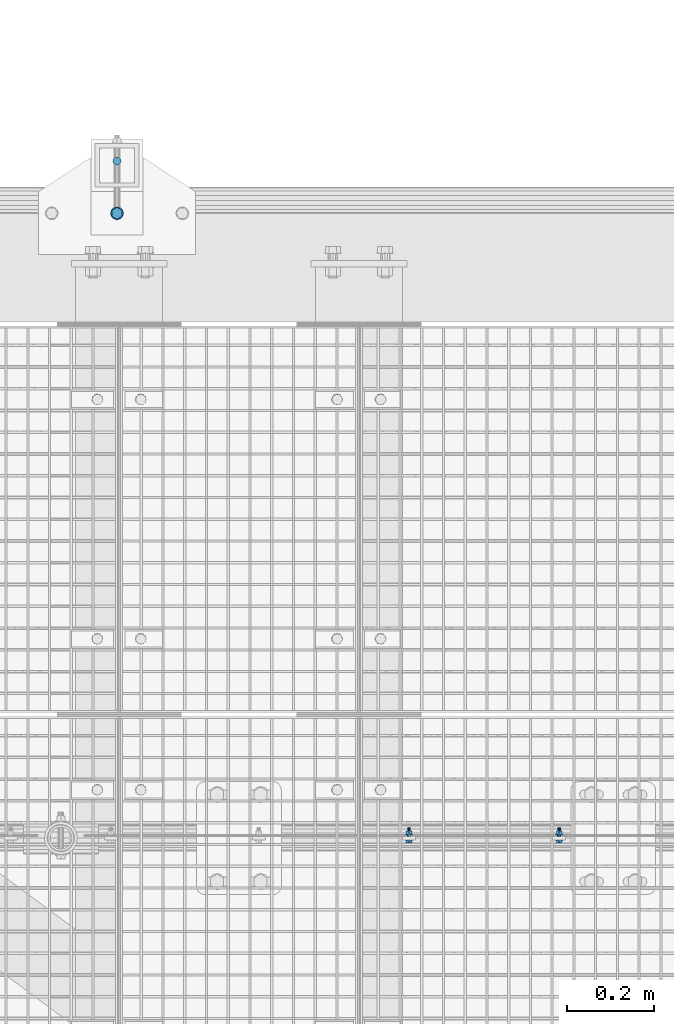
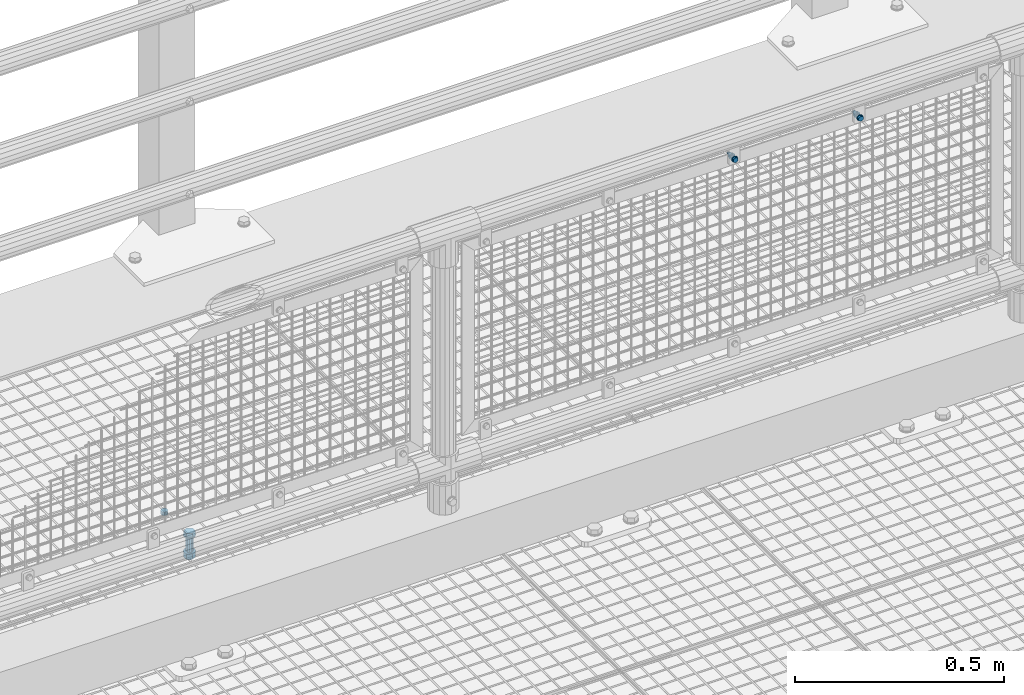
# One storey, part 76 of 1530: 4 mechanical fasteners.
"""IFC2X3 building model written with IfcOpenShell, lengths in millimetres."""

import ifcopenshell
import ifcopenshell.guid

model = None  # the IFC model being written
_history = None  # IfcOwnerHistory: only IFC2X3 demands one
_inside = {}  # id of a spatial element -> (the spatial element, [elements in it])
_under = {}  # id of a project, library or spatial element -> (it, [spatial elements below it])
_declared = {}  # id of a project -> (the project, [libraries it declares])
_typed = {}  # id of a type object -> (the type object, [elements of that type])
_made_of = {}  # id of a material, layer set ... -> (it, [elements and type objects made of it])


def new_model(schema):
    """Start an empty IFC model of exactly this schema.

    Asked for "IFC4X3", IfcOpenShell would pick the latest addendum, in which some entities
    have other attributes; the version numbers below select the first issue.
    IFC2X3 requires an IfcOwnerHistory on every rooted entity: one is made here for all.
    """
    global model, _history
    if schema == "IFC4X3":
        model = ifcopenshell.file(schema_version=(4, 3, 0, 0))
    else:
        model = ifcopenshell.file(schema=schema)
    _inside.clear()
    _under.clear()
    _declared.clear()
    _typed.clear()
    _made_of.clear()
    _history = None
    if model.schema == "IFC2X3":
        org = make("IfcOrganization", Name="unknown")
        user = make(
            "IfcPersonAndOrganization",
            ThePerson=make("IfcPerson", FamilyName="unknown"),
            TheOrganization=org,
        )
        app = make(
            "IfcApplication",
            ApplicationDeveloper=org,
            Version="unknown",
            ApplicationFullName="unknown",
            ApplicationIdentifier="unknown",
        )
        _history = make(
            "IfcOwnerHistory",
            OwningUser=user,
            OwningApplication=app,
            ChangeAction="ADDED",
            CreationDate=0,
        )
    return model


def make(cls, **values):
    """One entity of the class cls with the attributes given. An attribute that is None is left unset."""
    return model.create_entity(
        cls, **{name: value for name, value in values.items() if value is not None}
    )


def rooted(cls, **values):
    """An entity with a GlobalId (a new one), such as an element, a storey or a relation."""
    return make(cls, GlobalId=ifcopenshell.guid.new(), OwnerHistory=_history, **values)


def si_unit(unit_type, name, prefix=None):
    """IfcSIUnit, for example si_unit("LENGTHUNIT", "METRE", prefix="MILLI")."""
    return make("IfcSIUnit", UnitType=unit_type, Prefix=prefix, Name=name)


def assignment(units):
    """IfcUnitAssignment: the units of a project."""
    return None if units is None else make("IfcUnitAssignment", Units=units)


def point(xyz):
    """IfcCartesianPoint."""
    return None if xyz is None else make("IfcCartesianPoint", Coordinates=xyz)


def direction(xyz):
    """IfcDirection."""
    return None if xyz is None else make("IfcDirection", DirectionRatios=xyz)


def frame(location, z_axis=None, x_axis=None):
    """IfcAxis2Placement3D, a coordinate frame: its origin and axes. An axis left out is left unset."""
    return make(
        "IfcAxis2Placement3D",
        Location=point(location),
        Axis=direction(z_axis),
        RefDirection=direction(x_axis),
    )


def origin_with_axes():
    """The frame at (0, 0, 0) with the z axis (0, 0, 1) and the x axis (1, 0, 0) written out."""
    return frame((0.0, 0.0, 0.0), z_axis=(0.0, 0.0, 1.0), x_axis=(1.0, 0.0, 0.0))


def place(relative_to, where):
    """IfcLocalPlacement: puts the frame where relative to a parent placement (None: the world)."""
    return make(
        "IfcLocalPlacement", PlacementRelTo=relative_to, RelativePlacement=where
    )


def context(
    kind, dimensions, precision=None, world=None, true_north=None, identifier=None
):
    """IfcGeometricRepresentationContext, for example the 3D "Model" context."""
    return make(
        "IfcGeometricRepresentationContext",
        ContextIdentifier=identifier,
        ContextType=kind,
        CoordinateSpaceDimension=dimensions,
        Precision=precision,
        WorldCoordinateSystem=world,
        TrueNorth=true_north,
    )


def subcontext(parent, identifier, kind, view, scale=None):
    """IfcGeometricRepresentationSubContext, for example "Body" below "Model"."""
    return make(
        "IfcGeometricRepresentationSubContext",
        ContextIdentifier=identifier,
        ContextType=kind,
        ParentContext=parent,
        TargetScale=scale,
        TargetView=view,
    )


def project(units=None, contexts=None):
    """IfcProject with its units and contexts."""
    return rooted(
        "IfcProject",
        Name="project",
        RepresentationContexts=contexts,
        UnitsInContext=assignment(units),
    )


def spatial(cls, under=None, at=None, **own):
    """A site, building, storey or space (cls), placed at a placement, below another one or the project."""
    s = rooted(cls, ObjectPlacement=at, **own)
    if under is not None:
        _under.setdefault(under.id(), (under, []))[1].append(s)
    return s


def faces_of(points, faces, orient=None, outer=None):
    """IfcFace entities. A face is a list of loops; a loop is a list of indices into points, from 0.

    orient and outer hold one flag for each loop. By default every Orientation is true, the
    first loop of a face is its IfcFaceOuterBound and the others are IfcFaceBound.
    """
    made = []
    for i, loops in enumerate(faces):
        bounds = []
        for j, loop in enumerate(loops):
            is_outer = j == 0 if outer is None else outer[i][j]
            bounds.append(
                make(
                    "IfcFaceOuterBound" if is_outer else "IfcFaceBound",
                    Bound=make("IfcPolyLoop", Polygon=[points[k] for k in loop]),
                    Orientation=True if orient is None else orient[i][j],
                )
            )
        made.append(make("IfcFace", Bounds=bounds))
    return made


def faceted_brep(points, faces, orient=None, outer=None, voids=None):
    """IfcFacetedBrep: a solid bounded by flat faces; with voids (closed shells), ...WithVoids."""
    shared = [point(p) for p in points]
    hull = make("IfcClosedShell", CfsFaces=faces_of(shared, faces, orient, outer))
    if voids is None:
        return make("IfcFacetedBrep", Outer=hull)
    return make(
        "IfcFacetedBrepWithVoids",
        Outer=hull,
        Voids=[
            make(cls, CfsFaces=faces_of(shared, fs, o, b)) for cls, fs, o, b in voids
        ],
    )


def shape(context_of_items, identifier, shape_type, items):
    """IfcShapeRepresentation: the items that make up one representation, for example the "Body"."""
    return make(
        "IfcShapeRepresentation",
        ContextOfItems=context_of_items,
        RepresentationIdentifier=identifier,
        RepresentationType=shape_type,
        Items=items,
    )


def source(mapping_origin, context_of_items, identifier, shape_type, items):
    """IfcRepresentationMap: a shape defined once, which mapped items show again and again."""
    return make(
        "IfcRepresentationMap",
        MappingOrigin=mapping_origin,
        MappedRepresentation=shape(context_of_items, identifier, shape_type, items),
    )


def transform(
    local_origin,
    x_axis=None,
    y_axis=None,
    z_axis=None,
    scale=None,
    scale2=None,
    scale3=None,
    uniform=True,
):
    """IfcCartesianTransformationOperator3D, or its non-uniform kind. x_axis, y_axis, z_axis: its Axis1, 2, 3."""
    if uniform:
        return make(
            "IfcCartesianTransformationOperator3D",
            Axis1=direction(x_axis),
            Axis2=direction(y_axis),
            LocalOrigin=point(local_origin),
            Scale=scale,
            Axis3=direction(z_axis),
        )
    return make(
        "IfcCartesianTransformationOperator3DnonUniform",
        Axis1=direction(x_axis),
        Axis2=direction(y_axis),
        LocalOrigin=point(local_origin),
        Scale=scale,
        Axis3=direction(z_axis),
        Scale2=scale2,
        Scale3=scale3,
    )


def mapped(mapping_source, mapping_target):
    """IfcMappedItem: shows the shape of a source again, moved by a transform."""
    return make(
        "IfcMappedItem", MappingSource=mapping_source, MappingTarget=mapping_target
    )


def material(Name=None, Category=None):
    """IfcMaterial."""
    return make("IfcMaterial", Name=Name, Category=Category)


def made_of(thing, what):
    """Note that an element or type object is made of a material, layer set ...; save() writes the relation."""
    if what is not None:
        _made_of.setdefault(what.id(), (what, []))[1].append(thing)
    return thing


def type_object(cls, material=None, **own):
    """A type object (cls), such as IfcWallType, which elements share."""
    return made_of(rooted(cls, **own), material)


def element(
    cls,
    number,
    at=None,
    inside=None,
    cuts=None,
    type_object=None,
    material=None,
    context=None,
    identifier="Body",
    shape_type=None,
    held_by="IfcProductDefinitionShape",
    body=None,
    shapes=None,
    **own,
):
    """One element of the class cls, such as IfcWall. Its Tag is "e" and its number.

    at: its placement. inside: the storey or other place that contains it. cuts: it is an
    opening in that element (IfcRelVoidsElement). A single representation is given by context,
    identifier, shape_type and body (its items); several are given by shapes. held_by: the class
    of the entity that holds the representations. save() writes the other relations.
    """
    e = rooted(cls, Tag="e%d" % number, ObjectPlacement=at, **own)
    if body is not None:
        shapes = [shape(context, identifier, shape_type, body)]
    if shapes is not None:
        e.Representation = make(held_by, Representations=shapes)
    if inside is not None:
        _inside.setdefault(inside.id(), (inside, []))[1].append(e)
    if cuts is not None:
        rooted(
            "IfcRelVoidsElement", RelatingBuildingElement=cuts, RelatedOpeningElement=e
        )
    if type_object is not None:
        _typed.setdefault(type_object.id(), (type_object, []))[1].append(e)
    return made_of(e, material)


def aggregate(whole, parts):
    """IfcRelAggregates: a whole, such as a stair, and the parts it consists of."""
    return rooted("IfcRelAggregates", RelatingObject=whole, RelatedObjects=parts)


def save(model, path):
    """Write the relations noted so far, then the file.

    IfcRelAggregates (storeys below a building ...), IfcRelContainedInSpatialStructure (elements
    in a storey), IfcRelDefinesByType, IfcRelAssociatesMaterial and IfcRelDeclares: one each for
    every whole, place, type object, material and project.
    """
    for whole, parts in _under.values():
        aggregate(whole, parts)
    for where, things in _inside.values():
        rooted(
            "IfcRelContainedInSpatialStructure",
            RelatedElements=things,
            RelatingStructure=where,
        )
    for kind, things in _typed.values():
        rooted("IfcRelDefinesByType", RelatedObjects=things, RelatingType=kind)
    for what, things in _made_of.values():
        rooted("IfcRelAssociatesMaterial", RelatedObjects=things, RelatingMaterial=what)
    for by, libraries in _declared.values():
        rooted("IfcRelDeclares", RelatingContext=by, RelatedDefinitions=libraries)
    model.write(path)


model = new_model("IFC2X3")

# Units and contexts
model_context = context("Model", 3, precision=1e-05, world=origin_with_axes())
body_context = subcontext(model_context, "Body", "Model", "MODEL_VIEW")
ifc_project = project(units=[si_unit("LENGTHUNIT", "METRE", prefix="MILLI"), si_unit("AREAUNIT", "SQUARE_METRE"), si_unit("VOLUMEUNIT", "CUBIC_METRE"), si_unit("MASSUNIT", "GRAM", prefix="KILO"), si_unit("TIMEUNIT", "SECOND"), si_unit("PLANEANGLEUNIT", "RADIAN"), si_unit("SOLIDANGLEUNIT", "STERADIAN"), si_unit("THERMODYNAMICTEMPERATUREUNIT", "DEGREE_CELSIUS"), si_unit("LUMINOUSINTENSITYUNIT", "LUMEN")], contexts=[model_context])

# Site, building, storey
site_placement = place(None, origin_with_axes())
site = spatial("IfcSite", under=ifc_project, at=site_placement, Name="Brattvåg", CompositionType="ELEMENT")
building_placement = place(site_placement, origin_with_axes())
building = spatial("IfcBuilding", under=site, at=building_placement, Name="Undefined", CompositionType="ELEMENT")
storey_placement = place(building_placement, origin_with_axes())
storey = spatial("IfcBuildingStorey", under=building, at=storey_placement, Name="Undefined", CompositionType="ELEMENT", Elevation=0.0)

# Mechanical fasteners
ifc_material = material(Name="8")
mechanical_fastener_type = type_object("IfcMechanicalFastenerType", Name="Bolt assembly")
shared_shape_1 = source(origin_with_axes(), body_context, "Body", "Brep", [
    faceted_brep([(9.0, -0.000108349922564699, 0.0), (7.79422863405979, -0.000108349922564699, 4.50000000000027), (4.49999999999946, -0.000108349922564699, 7.79422863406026), (-9.3270238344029e-13, -0.000108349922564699, 9.0), (-4.50000000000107, -0.000108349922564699, 7.79422863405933), (-7.79422863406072, -0.000108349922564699, 4.49999999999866), (-9.0, -0.000108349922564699, -1.86540476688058e-12), (-7.79422863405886, -0.000108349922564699, -4.50000000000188), (-4.49999999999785, -0.000108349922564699, -7.79422863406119), (2.78811514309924e-12, -0.000108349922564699, -9.0), (4.50000000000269, -0.000108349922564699, -7.7942286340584), (7.79422863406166, -0.000108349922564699, -4.49999999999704), (7.79422863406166, 10.0998916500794, -4.49999999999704), (4.50000000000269, 10.0998916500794, -7.7942286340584), (2.78811514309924e-12, 10.0998916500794, -9.0), (-4.49999999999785, 10.0998916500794, -7.79422863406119), (-7.79422863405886, 10.0998916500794, -4.50000000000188), (-9.0, 10.0998916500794, -1.86540476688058e-12), (-7.79422863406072, 10.0998916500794, 4.49999999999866), (-4.50000000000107, 10.0998916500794, 7.79422863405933), (-9.3270238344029e-13, 10.0998916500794, 9.0), (4.49999999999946, 10.0998916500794, 7.79422863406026), (7.79422863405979, 10.0998916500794, 4.50000000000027), (9.0, 10.0998916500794, 0.0)], [[[0, 1, 2, 3, 4, 5, 6, 7, 8, 9, 10, 11]], [[12, 13, 14, 15, 16, 17, 18, 19, 20, 21, 22, 23]], [[0, 23, 22, 1]], [[1, 22, 21, 2]], [[2, 21, 20, 3]], [[3, 20, 19, 4]], [[4, 19, 18, 5]], [[5, 18, 17, 6]], [[6, 17, 16, 7]], [[7, 16, 15, 8]], [[8, 15, 14, 9]], [[9, 14, 13, 10]], [[10, 13, 12, 11]], [[11, 12, 23, 0]]]),
])
mechanical_fastener_1_placement = place(storey_placement, frame((2350.00016021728, 9219.99992874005, -855.000061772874), z_axis=(-1.0, 1.99999855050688e-09, 0.0), x_axis=(0.0, -0.99999999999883, 1.53000000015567e-06)))
element("IfcMechanicalFastener", 1, at=mechanical_fastener_1_placement, inside=storey, type_object=mechanical_fastener_type, material=ifc_material, Name="Bolt assembly", NominalDiameter=16.0, NominalLength=10.0001087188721, context=body_context, shape_type="MappedRepresentation", body=[
    mapped(shared_shape_1, transform((0.0, 0.0, 0.0))),
])
shared_shape_2 = source(origin_with_axes(), body_context, "Body", "Brep", [
    faceted_brep([(7.50555349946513, -6.90000021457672, 0.0), (3.75277674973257, -6.90000021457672, 6.5), (-3.75277674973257, -6.90000021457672, 6.5), (-7.50555349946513, -6.90000021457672, 9.19165206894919e-16), (-3.75277674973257, -6.90000021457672, -6.5), (3.75277674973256, -6.90000021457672, -6.5), (3.75277674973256, -1.60000002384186, -6.5), (-3.75277674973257, -1.60000002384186, -6.5), (-7.50555349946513, -1.60000002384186, 9.19165206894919e-16), (-3.75277674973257, -1.60000002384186, 6.5), (3.75277674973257, -1.60000002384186, 6.5), (7.50555349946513, -1.60000002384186, 0.0), (4.0, -1.60000002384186, 0.0), (3.46410161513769, -1.60000002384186, 2.00000000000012), (1.99999999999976, -1.60000002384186, 3.46410161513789), (-4.14534392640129e-13, -1.60000002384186, 4.0), (-2.00000000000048, -1.60000002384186, 3.46410161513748), (-3.4641016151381, -1.60000002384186, 1.9999999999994), (-4.0, -1.60000002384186, -8.29068785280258e-13), (-3.46410161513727, -1.60000002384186, -2.00000000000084), (-1.99999999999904, -1.60000002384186, -3.46410161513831), (1.23916228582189e-12, -1.60000002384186, -4.0), (2.00000000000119, -1.60000002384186, -3.46410161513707), (3.46410161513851, -1.60000002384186, -1.99999999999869), (3.46410161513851, 28.3999999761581, -1.99999999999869), (2.00000000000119, 28.3999999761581, -3.46410161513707), (1.23916228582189e-12, 28.3999999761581, -4.0), (-1.99999999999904, 28.3999999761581, -3.46410161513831), (-3.46410161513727, 28.3999999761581, -2.00000000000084), (-4.0, 28.3999999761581, -8.29068785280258e-13), (-3.4641016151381, 28.3999999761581, 1.9999999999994), (-2.00000000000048, 28.3999999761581, 3.46410161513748), (-4.14534392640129e-13, 28.3999999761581, 4.0), (1.99999999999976, 28.3999999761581, 3.46410161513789), (3.46410161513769, 28.3999999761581, 2.00000000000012), (4.0, 28.3999999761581, 0.0), (8.5, -1.60000002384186, 0.0), (7.36121593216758, -1.60000002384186, 4.25000000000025), (4.24999999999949, -1.60000002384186, 7.36121593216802), (-8.80885584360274e-13, -1.60000002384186, 8.5), (-4.25000000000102, -1.60000002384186, 7.36121593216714), (-7.36121593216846, -1.60000002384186, 4.24999999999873), (-8.5, -1.60000002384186, -1.76177116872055e-12), (-7.3612159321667, -1.60000002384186, -4.25000000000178), (-4.24999999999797, -1.60000002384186, -7.3612159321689), (2.63321985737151e-12, -1.60000002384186, -8.5), (4.25000000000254, -1.60000002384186, -7.36121593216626), (7.36121593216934, -1.60000002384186, -4.24999999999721), (7.36121593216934, 0.0, -4.24999999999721), (4.25000000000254, 0.0, -7.36121593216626), (2.63321985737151e-12, 0.0, -8.5), (-4.24999999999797, 0.0, -7.3612159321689), (-7.3612159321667, 0.0, -4.25000000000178), (-8.5, 0.0, -1.76177116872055e-12), (-7.36121593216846, 0.0, 4.24999999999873), (-4.25000000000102, 0.0, 7.36121593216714), (-8.80885584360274e-13, 0.0, 8.5), (4.24999999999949, 0.0, 7.36121593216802), (7.36121593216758, 0.0, 4.25000000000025), (8.5, 0.0, 0.0), (8.5, 11.5015258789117, 0.0), (7.36121593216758, 11.5015258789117, 4.25000000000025), (4.24999999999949, 11.5015258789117, 7.36121593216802), (-8.80885584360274e-13, 11.5015258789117, 8.5), (-4.25000000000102, 11.5015258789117, 7.36121593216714), (-7.36121593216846, 11.5015258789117, 4.24999999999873), (-8.5, 11.5015258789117, -1.76177116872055e-12), (-7.3612159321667, 11.5015258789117, -4.25000000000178), (-4.24999999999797, 11.5015258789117, -7.3612159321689), (2.63321985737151e-12, 11.5015258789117, -8.5), (4.25000000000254, 11.5015258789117, -7.36121593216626), (7.36121593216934, 11.5015258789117, -4.24999999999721), (7.36121593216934, 13.1015259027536, -4.24999999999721), (4.25000000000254, 13.1015259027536, -7.36121593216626), (2.63321985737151e-12, 13.1015259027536, -8.5), (-4.24999999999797, 13.1015259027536, -7.3612159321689), (-7.3612159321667, 13.1015259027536, -4.25000000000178), (-8.5, 13.1015259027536, -1.76177116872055e-12), (-7.36121593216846, 13.1015259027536, 4.24999999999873), (-4.25000000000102, 13.1015259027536, 7.36121593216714), (-8.80885584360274e-13, 13.1015259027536, 8.5), (4.24999999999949, 13.1015259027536, 7.36121593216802), (7.36121593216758, 13.1015259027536, 4.25000000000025), (8.5, 13.1015259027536, 0.0), (7.50555349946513, 13.1015259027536, 0.0), (3.75277674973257, 13.1015259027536, 6.5), (-3.75277674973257, 13.1015259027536, 6.5), (-7.50555349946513, 13.1015259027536, 9.19165206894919e-16), (-3.75277674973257, 13.1015259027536, -6.5), (3.75277674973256, 13.1015259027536, -6.5), (3.75277674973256, 19.9015260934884, -6.5), (-3.75277674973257, 19.9015260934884, -6.5), (-7.50555349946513, 19.9015260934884, 9.19165206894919e-16), (-3.75277674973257, 19.9015260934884, 6.5), (3.75277674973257, 19.9015260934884, 6.5), (7.50555349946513, 19.9015260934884, 0.0)], [[[0, 1, 2, 3, 4, 5]], [[6, 7, 8, 9, 10, 11]], [[0, 11, 10, 1]], [[1, 10, 9, 2]], [[2, 9, 8, 3]], [[3, 8, 7, 4]], [[4, 7, 6, 5]], [[5, 6, 11, 0]], [[12, 13, 14, 15, 16, 17, 18, 19, 20, 21, 22, 23]], [[24, 25, 26, 27, 28, 29, 30, 31, 32, 33, 34, 35]], [[12, 35, 34, 13]], [[13, 34, 33, 14]], [[14, 33, 32, 15]], [[15, 32, 31, 16]], [[16, 31, 30, 17]], [[17, 30, 29, 18]], [[18, 29, 28, 19]], [[19, 28, 27, 20]], [[20, 27, 26, 21]], [[21, 26, 25, 22]], [[22, 25, 24, 23]], [[23, 24, 35, 12]], [[36, 37, 38, 39, 40, 41, 42, 43, 44, 45, 46, 47]], [[48, 49, 50, 51, 52, 53, 54, 55, 56, 57, 58, 59]], [[36, 59, 58, 37]], [[37, 58, 57, 38]], [[38, 57, 56, 39]], [[39, 56, 55, 40]], [[40, 55, 54, 41]], [[41, 54, 53, 42]], [[42, 53, 52, 43]], [[43, 52, 51, 44]], [[44, 51, 50, 45]], [[45, 50, 49, 46]], [[46, 49, 48, 47]], [[47, 48, 59, 36]], [[60, 61, 62, 63, 64, 65, 66, 67, 68, 69, 70, 71]], [[72, 73, 74, 75, 76, 77, 78, 79, 80, 81, 82, 83]], [[60, 83, 82, 61]], [[61, 82, 81, 62]], [[62, 81, 80, 63]], [[63, 80, 79, 64]], [[64, 79, 78, 65]], [[65, 78, 77, 66]], [[66, 77, 76, 67]], [[67, 76, 75, 68]], [[68, 75, 74, 69]], [[69, 74, 73, 70]], [[70, 73, 72, 71]], [[71, 72, 83, 60]], [[84, 85, 86, 87, 88, 89]], [[90, 91, 92, 93, 94, 95]], [[84, 95, 94, 85]], [[85, 94, 93, 86]], [[86, 93, 92, 87]], [[87, 92, 91, 88]], [[88, 91, 90, 89]], [[89, 90, 95, 84]]]),
    faceted_brep([(5.0, 0.1, 0.0), (4.33012701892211, 0.1, 2.50000000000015), (2.4999999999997, 0.1, 4.33012701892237), (-5.18167990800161e-13, 0.1, 5.0), (-2.5000000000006, 0.1, 4.33012701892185), (-4.33012701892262, 0.1, 2.49999999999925), (-5.0, 0.1, -1.03633598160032e-12), (-4.33012701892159, 0.1, -2.50000000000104), (-2.49999999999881, 0.1, -4.33012701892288), (1.54895285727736e-12, 0.1, -5.0), (2.50000000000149, 0.1, -4.33012701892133), (4.33012701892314, 0.1, -2.49999999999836), (4.33012701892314, 8.1, -2.49999999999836), (2.50000000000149, 8.1, -4.33012701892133), (1.54895285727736e-12, 8.1, -5.0), (-2.49999999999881, 8.1, -4.33012701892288), (-4.33012701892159, 8.1, -2.50000000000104), (-5.0, 8.1, -1.03633598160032e-12), (-4.33012701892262, 8.1, 2.49999999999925), (-2.5000000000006, 8.1, 4.33012701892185), (-5.18167990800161e-13, 8.1, 5.0), (2.4999999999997, 8.1, 4.33012701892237), (4.33012701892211, 8.1, 2.50000000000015), (5.0, 8.1, 0.0), (5.0, 8.40152587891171, 0.0), (4.33012701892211, 8.40152587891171, 2.50000000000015), (2.4999999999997, 8.40152587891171, 4.33012701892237), (-5.18167990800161e-13, 8.40152587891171, 5.0), (-2.5000000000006, 8.40152587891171, 4.33012701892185), (-4.33012701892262, 8.40152587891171, 2.49999999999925), (-5.0, 8.40152587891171, -1.03633598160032e-12), (-4.33012701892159, 8.40152587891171, -2.50000000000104), (-2.49999999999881, 8.40152587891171, -4.33012701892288), (1.54895285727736e-12, 8.40152587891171, -5.0), (2.50000000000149, 8.40152587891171, -4.33012701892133), (4.33012701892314, 8.40152587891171, -2.49999999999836), (4.33012701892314, 11.5015258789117, -2.49999999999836), (2.50000000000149, 11.5015258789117, -4.33012701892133), (1.54895285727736e-12, 11.5015258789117, -5.0), (-2.49999999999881, 11.5015258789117, -4.33012701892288), (-4.33012701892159, 11.5015258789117, -2.50000000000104), (-5.0, 11.5015258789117, -1.03633598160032e-12), (-4.33012701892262, 11.5015258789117, 2.49999999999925), (-2.5000000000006, 11.5015258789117, 4.33012701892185), (-5.18167990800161e-13, 11.5015258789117, 5.0), (2.4999999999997, 11.5015258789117, 4.33012701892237), (4.33012701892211, 11.5015258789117, 2.50000000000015), (5.0, 11.5015258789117, 0.0)], [[[0, 1, 2, 3, 4, 5, 6, 7, 8, 9, 10, 11]], [[12, 13, 14, 15, 16, 17, 18, 19, 20, 21, 22, 23]], [[0, 23, 22, 1]], [[1, 22, 21, 2]], [[2, 21, 20, 3]], [[3, 20, 19, 4]], [[4, 19, 18, 5]], [[5, 18, 17, 6]], [[6, 17, 16, 7]], [[7, 16, 15, 8]], [[8, 15, 14, 9]], [[9, 14, 13, 10]], [[10, 13, 12, 11]], [[11, 12, 23, 0]], [[24, 25, 26, 27, 28, 29, 30, 31, 32, 33, 34, 35]], [[36, 37, 38, 39, 40, 41, 42, 43, 44, 45, 46, 47]], [[24, 47, 46, 25]], [[25, 46, 45, 26]], [[26, 45, 44, 27]], [[27, 44, 43, 28]], [[28, 43, 42, 29]], [[29, 42, 41, 30]], [[30, 41, 40, 31]], [[31, 40, 39, 32]], [[32, 39, 38, 33]], [[33, 38, 37, 34]], [[34, 37, 36, 35]], [[35, 36, 47, 24]]]),
])
for number, where, z_axis, x_axis, name in (
    (2, (3020.8504180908, 7660.49950027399, 889.680069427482), (-1.0, 1.99999855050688e-09, 0.0), (0.0, 0.0, 1.0), "Bolt assembly"),
    (3, (3365.85163879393, 7660.49950027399, 889.680069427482), (-1.0, 1.99999855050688e-09, 0.0), (0.0, 0.0, 1.0), "Bolt assembly"),
):
    element("IfcMechanicalFastener", number, at=place(storey_placement, frame(where, z_axis=z_axis, x_axis=x_axis)), inside=storey, type_object=mechanical_fastener_type, material=ifc_material, Name=name, NominalDiameter=8.0, NominalLength=30.0, context=body_context, shape_type="MappedRepresentation", body=[
        mapped(shared_shape_2, transform((0.0, 0.0, 0.0))),
    ])
shared_shape_3 = source(origin_with_axes(), body_context, "Body", "Brep", [
    faceted_brep([(13.856406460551, -12.9998916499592, 0.0), (6.92820323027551, -12.9998916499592, 12.0), (-6.92820323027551, -12.9998916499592, 12.0), (-13.856406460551, -12.9998916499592, 1.69692038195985e-15), (-6.92820323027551, -12.9998916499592, -12.0), (6.9282032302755, -12.9998916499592, -12.0), (6.9282032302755, -2.99989164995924, -12.0), (-6.92820323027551, -2.99989164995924, -12.0), (-13.856406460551, -2.99989164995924, 1.69692038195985e-15), (-6.92820323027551, -2.99989164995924, 12.0), (6.92820323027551, -2.99989164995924, 12.0), (13.856406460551, -2.99989164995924, 0.0), (8.0, -2.99989164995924, 0.0), (6.92820323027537, -2.99989164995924, 4.00000000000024), (3.99999999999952, -2.99989164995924, 6.92820323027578), (-8.29068785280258e-13, -2.99989164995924, 8.0), (-4.00000000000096, -2.99989164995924, 6.92820323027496), (-6.9282032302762, -2.99989164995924, 3.99999999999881), (-8.0, -2.99989164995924, -1.65813757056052e-12), (-6.92820323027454, -2.99989164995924, -4.00000000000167), (-3.99999999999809, -2.99989164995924, -6.92820323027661), (2.47832457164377e-12, -2.99989164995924, -8.0), (4.00000000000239, -2.99989164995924, -6.92820323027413), (6.92820323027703, -2.99989164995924, -3.99999999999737), (6.92820323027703, 67.0001083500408, -3.99999999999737), (4.00000000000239, 67.0001083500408, -6.92820323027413), (2.47832457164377e-12, 67.0001083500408, -8.0), (-3.99999999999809, 67.0001083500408, -6.92820323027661), (-6.92820323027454, 67.0001083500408, -4.00000000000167), (-8.0, 67.0001083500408, -1.65813757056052e-12), (-6.9282032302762, 67.0001083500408, 3.99999999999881), (-4.00000000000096, 67.0001083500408, 6.92820323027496), (-8.29068785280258e-13, 67.0001083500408, 8.0), (3.99999999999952, 67.0001083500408, 6.92820323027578), (6.92820323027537, 67.0001083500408, 4.00000000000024), (8.0, 67.0001083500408, 0.0), (15.0, -2.99989164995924, 0.0), (12.9903810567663, -2.99989164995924, 7.50000000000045), (7.4999999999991, -2.99989164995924, 12.9903810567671), (-1.55450397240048e-12, -2.99989164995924, 15.0), (-7.50000000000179, -2.99989164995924, 12.9903810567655), (-12.9903810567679, -2.99989164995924, 7.49999999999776), (-15.0, -2.99989164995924, -3.10900794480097e-12), (-12.9903810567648, -2.99989164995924, -7.50000000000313), (-7.49999999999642, -2.99989164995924, -12.9903810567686), (4.64685857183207e-12, -2.99989164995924, -15.0), (7.50000000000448, -2.99989164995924, -12.990381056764), (12.9903810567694, -2.99989164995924, -7.49999999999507), (12.9903810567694, 0.000108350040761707, -7.49999999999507), (7.50000000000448, 0.000108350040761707, -12.990381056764), (4.64685857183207e-12, 0.000108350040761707, -15.0), (-7.49999999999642, 0.000108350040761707, -12.9903810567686), (-12.9903810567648, 0.000108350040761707, -7.50000000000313), (-15.0, 0.000108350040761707, -3.10900794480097e-12), (-12.9903810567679, 0.000108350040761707, 7.49999999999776), (-7.50000000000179, 0.000108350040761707, 12.9903810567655), (-1.55450397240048e-12, 0.000108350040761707, 15.0), (7.4999999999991, 0.000108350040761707, 12.9903810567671), (12.9903810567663, 0.000108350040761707, 7.50000000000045), (15.0, 0.000108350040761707, 0.0), (15.0, 45.0001982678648, 0.0), (12.9903810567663, 45.0001982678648, 7.50000000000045), (7.4999999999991, 45.0001982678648, 12.9903810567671), (-1.55450397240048e-12, 45.0001982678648, 15.0), (-7.50000000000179, 45.0001982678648, 12.9903810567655), (-12.9903810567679, 45.0001982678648, 7.49999999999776), (-15.0, 45.0001982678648, -3.10900794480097e-12), (-12.9903810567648, 45.0001982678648, -7.50000000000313), (-7.49999999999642, 45.0001982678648, -12.9903810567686), (4.64685857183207e-12, 45.0001982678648, -15.0), (7.50000000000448, 45.0001982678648, -12.990381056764), (12.9903810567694, 45.0001982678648, -7.49999999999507), (12.9903810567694, 48.0001982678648, -7.49999999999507), (7.50000000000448, 48.0001982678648, -12.990381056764), (4.64685857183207e-12, 48.0001982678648, -15.0), (-7.49999999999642, 48.0001982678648, -12.9903810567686), (-12.9903810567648, 48.0001982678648, -7.50000000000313), (-15.0, 48.0001982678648, -3.10900794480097e-12), (-12.9903810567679, 48.0001982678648, 7.49999999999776), (-7.50000000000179, 48.0001982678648, 12.9903810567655), (-1.55450397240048e-12, 48.0001982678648, 15.0), (7.4999999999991, 48.0001982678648, 12.9903810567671), (12.9903810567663, 48.0001982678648, 7.50000000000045), (15.0, 48.0001982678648, 0.0), (13.856406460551, 48.0001982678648, 0.0), (6.92820323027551, 48.0001982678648, 12.0), (-6.92820323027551, 48.0001982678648, 12.0), (-13.856406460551, 48.0001982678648, 1.69692038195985e-15), (-6.92820323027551, 48.0001982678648, -12.0), (6.9282032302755, 48.0001982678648, -12.0), (6.9282032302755, 62.8001984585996, -12.0), (-6.92820323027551, 62.8001984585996, -12.0), (-13.856406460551, 62.8001984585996, 1.69692038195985e-15), (-6.92820323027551, 62.8001984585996, 12.0), (6.92820323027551, 62.8001984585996, 12.0), (13.856406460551, 62.8001984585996, 0.0)], [[[0, 1, 2, 3, 4, 5]], [[6, 7, 8, 9, 10, 11]], [[0, 11, 10, 1]], [[1, 10, 9, 2]], [[2, 9, 8, 3]], [[3, 8, 7, 4]], [[4, 7, 6, 5]], [[5, 6, 11, 0]], [[12, 13, 14, 15, 16, 17, 18, 19, 20, 21, 22, 23]], [[24, 25, 26, 27, 28, 29, 30, 31, 32, 33, 34, 35]], [[12, 35, 34, 13]], [[13, 34, 33, 14]], [[14, 33, 32, 15]], [[15, 32, 31, 16]], [[16, 31, 30, 17]], [[17, 30, 29, 18]], [[18, 29, 28, 19]], [[19, 28, 27, 20]], [[20, 27, 26, 21]], [[21, 26, 25, 22]], [[22, 25, 24, 23]], [[23, 24, 35, 12]], [[36, 37, 38, 39, 40, 41, 42, 43, 44, 45, 46, 47]], [[48, 49, 50, 51, 52, 53, 54, 55, 56, 57, 58, 59]], [[36, 59, 58, 37]], [[37, 58, 57, 38]], [[38, 57, 56, 39]], [[39, 56, 55, 40]], [[40, 55, 54, 41]], [[41, 54, 53, 42]], [[42, 53, 52, 43]], [[43, 52, 51, 44]], [[44, 51, 50, 45]], [[45, 50, 49, 46]], [[46, 49, 48, 47]], [[47, 48, 59, 36]], [[60, 61, 62, 63, 64, 65, 66, 67, 68, 69, 70, 71]], [[72, 73, 74, 75, 76, 77, 78, 79, 80, 81, 82, 83]], [[60, 83, 82, 61]], [[61, 82, 81, 62]], [[62, 81, 80, 63]], [[63, 80, 79, 64]], [[64, 79, 78, 65]], [[65, 78, 77, 66]], [[66, 77, 76, 67]], [[67, 76, 75, 68]], [[68, 75, 74, 69]], [[69, 74, 73, 70]], [[70, 73, 72, 71]], [[71, 72, 83, 60]], [[84, 85, 86, 87, 88, 89]], [[90, 91, 92, 93, 94, 95]], [[84, 95, 94, 85]], [[85, 94, 93, 86]], [[86, 93, 92, 87]], [[87, 92, 91, 88]], [[88, 91, 90, 89]], [[89, 90, 95, 84]]]),
    faceted_brep([(9.0, 0.100108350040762, 0.0), (7.79422863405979, 0.100108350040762, 4.50000000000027), (4.49999999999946, 0.100108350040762, 7.79422863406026), (-9.3270238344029e-13, 0.100108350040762, 9.0), (-4.50000000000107, 0.100108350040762, 7.79422863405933), (-7.79422863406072, 0.100108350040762, 4.49999999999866), (-9.0, 0.100108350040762, -1.86540476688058e-12), (-7.79422863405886, 0.100108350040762, -4.50000000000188), (-4.49999999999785, 0.100108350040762, -7.79422863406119), (2.78811514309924e-12, 0.100108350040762, -9.0), (4.50000000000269, 0.100108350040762, -7.7942286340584), (7.79422863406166, 0.100108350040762, -4.49999999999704), (7.79422863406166, 10.10010835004, -4.49999999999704), (4.50000000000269, 10.10010835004, -7.7942286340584), (2.78811514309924e-12, 10.10010835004, -9.0), (-4.49999999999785, 10.10010835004, -7.79422863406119), (-7.79422863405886, 10.10010835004, -4.50000000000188), (-9.0, 10.10010835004, -1.86540476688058e-12), (-7.79422863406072, 10.10010835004, 4.49999999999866), (-4.50000000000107, 10.10010835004, 7.79422863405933), (-9.3270238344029e-13, 10.10010835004, 9.0), (4.49999999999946, 10.10010835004, 7.79422863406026), (7.79422863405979, 10.10010835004, 4.50000000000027), (9.0, 10.10010835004, 0.0), (9.0, 10.0002383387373, 0.0), (7.79422863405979, 10.0002383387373, 4.50000000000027), (4.49999999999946, 10.0002383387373, 7.79422863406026), (-9.3270238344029e-13, 10.0002383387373, 9.0), (-4.50000000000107, 10.0002383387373, 7.79422863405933), (-7.79422863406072, 10.0002383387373, 4.49999999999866), (-9.0, 10.0002383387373, -1.86540476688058e-12), (-7.79422863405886, 10.0002383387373, -4.50000000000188), (-4.49999999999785, 10.0002383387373, -7.79422863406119), (2.78811514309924e-12, 10.0002383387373, -9.0), (4.50000000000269, 10.0002383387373, -7.7942286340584), (7.79422863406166, 10.0002383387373, -4.49999999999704), (7.79422863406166, 15.000238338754, -4.49999999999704), (4.50000000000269, 15.000238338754, -7.7942286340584), (2.78811514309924e-12, 15.000238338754, -9.0), (-4.49999999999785, 15.000238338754, -7.79422863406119), (-7.79422863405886, 15.000238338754, -4.50000000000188), (-9.0, 15.000238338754, -1.86540476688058e-12), (-7.79422863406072, 15.000238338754, 4.49999999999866), (-4.50000000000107, 15.000238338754, 7.79422863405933), (-9.3270238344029e-13, 15.000238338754, 9.0), (4.49999999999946, 15.000238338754, 7.79422863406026), (7.79422863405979, 15.000238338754, 4.50000000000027), (9.0, 15.000238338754, 0.0), (9.0, 14.9001982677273, 0.0), (7.79422863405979, 14.9001982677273, 4.50000000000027), (4.49999999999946, 14.9001982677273, 7.79422863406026), (-9.3270238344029e-13, 14.9001982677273, 9.0), (-4.50000000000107, 14.9001982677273, 7.79422863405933), (-7.79422863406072, 14.9001982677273, 4.49999999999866), (-9.0, 14.9001982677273, -1.86540476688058e-12), (-7.79422863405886, 14.9001982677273, -4.50000000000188), (-4.49999999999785, 14.9001982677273, -7.79422863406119), (2.78811514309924e-12, 14.9001982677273, -9.0), (4.50000000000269, 14.9001982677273, -7.7942286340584), (7.79422863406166, 14.9001982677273, -4.49999999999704), (7.79422863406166, 45.0001982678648, -4.49999999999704), (4.50000000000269, 45.0001982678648, -7.7942286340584), (2.78811514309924e-12, 45.0001982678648, -9.0), (-4.49999999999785, 45.0001982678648, -7.79422863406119), (-7.79422863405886, 45.0001982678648, -4.50000000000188), (-9.0, 45.0001982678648, -1.86540476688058e-12), (-7.79422863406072, 45.0001982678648, 4.49999999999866), (-4.50000000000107, 45.0001982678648, 7.79422863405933), (-9.3270238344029e-13, 45.0001982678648, 9.0), (4.49999999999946, 45.0001982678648, 7.79422863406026), (7.79422863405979, 45.0001982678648, 4.50000000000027), (9.0, 45.0001982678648, 0.0)], [[[0, 1, 2, 3, 4, 5, 6, 7, 8, 9, 10, 11]], [[12, 13, 14, 15, 16, 17, 18, 19, 20, 21, 22, 23]], [[0, 23, 22, 1]], [[1, 22, 21, 2]], [[2, 21, 20, 3]], [[3, 20, 19, 4]], [[4, 19, 18, 5]], [[5, 18, 17, 6]], [[6, 17, 16, 7]], [[7, 16, 15, 8]], [[8, 15, 14, 9]], [[9, 14, 13, 10]], [[10, 13, 12, 11]], [[11, 12, 23, 0]], [[24, 25, 26, 27, 28, 29, 30, 31, 32, 33, 34, 35]], [[36, 37, 38, 39, 40, 41, 42, 43, 44, 45, 46, 47]], [[24, 47, 46, 25]], [[25, 46, 45, 26]], [[26, 45, 44, 27]], [[27, 44, 43, 28]], [[28, 43, 42, 29]], [[29, 42, 41, 30]], [[30, 41, 40, 31]], [[31, 40, 39, 32]], [[32, 39, 38, 33]], [[33, 38, 37, 34]], [[34, 37, 36, 35]], [[35, 36, 47, 24]], [[48, 49, 50, 51, 52, 53, 54, 55, 56, 57, 58, 59]], [[60, 61, 62, 63, 64, 65, 66, 67, 68, 69, 70, 71]], [[48, 71, 70, 49]], [[49, 70, 69, 50]], [[50, 69, 68, 51]], [[51, 68, 67, 52]], [[52, 67, 66, 53]], [[53, 66, 65, 54]], [[54, 65, 64, 55]], [[55, 64, 63, 56]], [[56, 63, 62, 57]], [[57, 62, 61, 58]], [[58, 61, 60, 59]], [[59, 60, 71, 48]]]),
])
mechanical_fastener_2_placement = place(storey_placement, frame((2350.00016021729, 9099.99968338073, -844.999801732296), z_axis=(-1.0, 1.99999855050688e-09, 0.0), x_axis=(0.0, 0.999999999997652, -2.16700000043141e-06)))
element("IfcMechanicalFastener", 4, at=mechanical_fastener_2_placement, inside=storey, type_object=mechanical_fastener_type, material=ifc_material, Name="Bolt assembly", NominalDiameter=16.0, NominalLength=70.0, context=body_context, shape_type="MappedRepresentation", body=[
    mapped(shared_shape_3, transform((0.0, 0.0, 0.0))),
])

save(model, "model.ifc")
